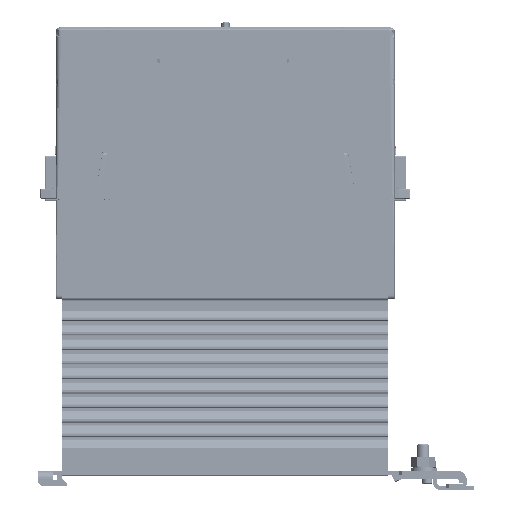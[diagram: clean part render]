
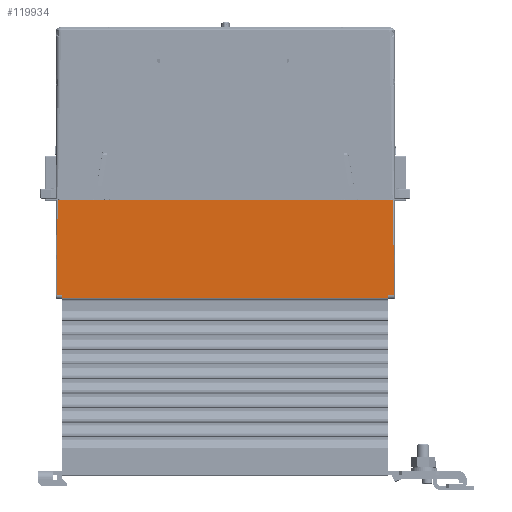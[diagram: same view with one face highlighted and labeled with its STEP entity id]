
A CAD part, left-side view. The second image highlights one B-rep face of the part: STEP entity #119934.
In plain terms, the highlighted planar face has unit normal (-1, 0, 0).
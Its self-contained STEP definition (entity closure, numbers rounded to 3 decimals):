
#15591=DIRECTION('',(0.,-1.,0.));
#15592=VECTOR('',#15591,160.);
#15593=CARTESIAN_POINT('',(-70.,80.,-5.2));
#15594=LINE('',#15593,#15592);
#15595=DIRECTION('',(0.,0.,-1.));
#15596=VECTOR('',#15595,5.2);
#15597=CARTESIAN_POINT('',(-70.,80.,0.));
#15598=LINE('',#15597,#15596);
#15599=DIRECTION('',(0.,-0.009,1.));
#15600=VECTOR('',#15599,4.);
#15601=CARTESIAN_POINT('',(-70.,80.035,-4.));
#15602=LINE('',#15601,#15600);
#15603=DIRECTION('',(0.,0.018,-1.));
#15604=VECTOR('',#15603,27.171);
#15605=CARTESIAN_POINT('',(-70.,82.1,42.9));
#15606=LINE('',#15605,#15604);
#15607=DIRECTION('',(0.,1.,0.));
#15608=VECTOR('',#15607,164.2);
#15609=CARTESIAN_POINT('',(-70.,-82.1,42.9));
#15610=LINE('',#15609,#15608);
#15611=DIRECTION('',(0.,0.018,1.));
#15612=VECTOR('',#15611,27.171);
#15613=CARTESIAN_POINT('',(-70.,-82.6,15.733));
#15614=LINE('',#15613,#15612);
#15615=DIRECTION('',(0.,-0.009,
-1.));
#15616=VECTOR('',#15615,4.);
#15617=CARTESIAN_POINT('',(-70.,-80.,0.));
#15618=LINE('',#15617,#15616);
#15619=DIRECTION('',(0.,0.,1.));
#15620=VECTOR('',#15619,5.2);
#15621=CARTESIAN_POINT('',(-70.,-80.,-5.2));
#15622=LINE('',#15621,#15620);
#16161=CARTESIAN_POINT('',(-70.,80.035,-4.));
#17421=CARTESIAN_POINT('',(-70.,-82.1,42.9));
#20667=CARTESIAN_POINT('',(-70.,-80.035,-4.));
#50474=DIRECTION('',(0.,-1.,0.));
#50475=VECTOR('',#50474,2.565);
#50476=CARTESIAN_POINT('',(-70.,-80.035,-4.));
#50477=LINE('',#50476,#50475);
#50499=DIRECTION('',(0.,0.,1.));
#50500=VECTOR('',#50499,19.733);
#50501=CARTESIAN_POINT('',(-70.,-82.6,-4.));
#50502=LINE('',#50501,#50500);
#50556=DIRECTION('',(0.,0.,-1.));
#50557=VECTOR('',#50556,19.733);
#50558=CARTESIAN_POINT('',(-70.,82.6,15.733));
#50559=LINE('',#50558,#50557);
#50564=CARTESIAN_POINT('',(-70.,82.6,15.733));
#50571=DIRECTION('',(0.,-1.,0.));
#50572=VECTOR('',#50571,2.565);
#50573=CARTESIAN_POINT('',(-70.,82.6,-4.));
#50574=LINE('',#50573,#50572);
#89791=CARTESIAN_POINT('',(-70.,-80.,-5.2));
#89793=VERTEX_POINT('',#89791);
#90383=CARTESIAN_POINT('',(-70.,80.,-5.2));
#90385=VERTEX_POINT('',#90383);
#95320=VERTEX_POINT('',#16161);
#96035=VERTEX_POINT('',#17421);
#96036=CARTESIAN_POINT('',(-70.,82.1,42.9));
#96037=VERTEX_POINT('',#96036);
#96398=VERTEX_POINT('',#20667);
#98017=VERTEX_POINT('',#50564);
#98018=CARTESIAN_POINT('',(-70.,82.6,-4.));
#98019=VERTEX_POINT('',#98018);
#98020=CARTESIAN_POINT('',(-70.,-82.6,-4.));
#98021=CARTESIAN_POINT('',(-70.,-82.6,15.733));
#98022=VERTEX_POINT('',#98020);
#98023=VERTEX_POINT('',#98021);
#102069=CARTESIAN_POINT('',(-70.,-80.,0.));
#102071=VERTEX_POINT('',#102069);
#102085=CARTESIAN_POINT('',(-70.,80.,0.));
#102087=VERTEX_POINT('',#102085);
#119906=CARTESIAN_POINT('',(-70.,0.,-2.6));
#119907=DIRECTION('',(1.,0.,0.));
#119908=DIRECTION('',(0.,0.,1.));
#119909=AXIS2_PLACEMENT_3D('',#119906,#119907,#119908);
#119910=PLANE('',#119909);
#119911=ORIENTED_EDGE('',*,*,#111787,.F.);
#119913=ORIENTED_EDGE('',*,*,#119912,.F.);
#119915=ORIENTED_EDGE('',*,*,#119914,.F.);
#119917=ORIENTED_EDGE('',*,*,#119916,.F.);
#119919=ORIENTED_EDGE('',*,*,#119918,.F.);
#119921=ORIENTED_EDGE('',*,*,#119920,.F.);
#119923=ORIENTED_EDGE('',*,*,#119922,.F.);
#119925=ORIENTED_EDGE('',*,*,#119924,.F.);
#119927=ORIENTED_EDGE('',*,*,#119926,.F.);
#119929=ORIENTED_EDGE('',*,*,#119928,.F.);
#119930=ORIENTED_EDGE('',*,*,#111236,.F.);
#119931=ORIENTED_EDGE('',*,*,#119901,.F.);
#119932=EDGE_LOOP('',(#119911,#119913,#119915,#119917,#119919,#119921,#119923,
#119925,#119927,#119929,#119930,#119931));
#119933=FACE_OUTER_BOUND('',#119932,.F.);
#111236=EDGE_CURVE('',#89793,#102071,#15622,.T.);
#111787=EDGE_CURVE('',#102087,#90385,#15598,.T.);
#119901=EDGE_CURVE('',#90385,#89793,#15594,.T.);
#119912=EDGE_CURVE('',#95320,#102087,#15602,.T.);
#119914=EDGE_CURVE('',#98019,#95320,#50574,.T.);
#119916=EDGE_CURVE('',#98017,#98019,#50559,.T.);
#119918=EDGE_CURVE('',#96037,#98017,#15606,.T.);
#119920=EDGE_CURVE('',#96035,#96037,#15610,.T.);
#119922=EDGE_CURVE('',#98023,#96035,#15614,.T.);
#119924=EDGE_CURVE('',#98022,#98023,#50502,.T.);
#119926=EDGE_CURVE('',#96398,#98022,#50477,.T.);
#119928=EDGE_CURVE('',#102071,#96398,#15618,.T.);
#119934=ADVANCED_FACE('',(#119933),#119910,.F.);
